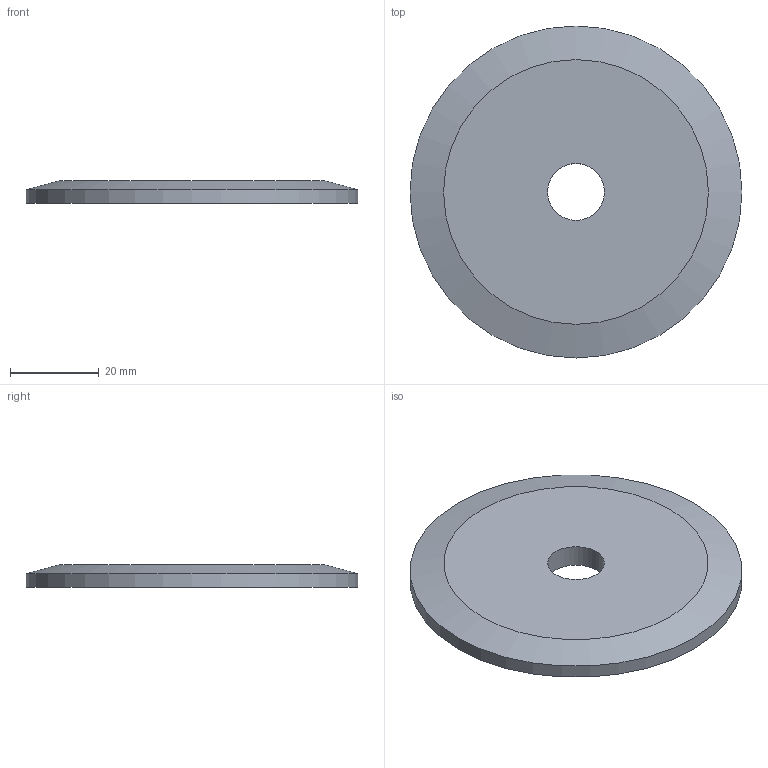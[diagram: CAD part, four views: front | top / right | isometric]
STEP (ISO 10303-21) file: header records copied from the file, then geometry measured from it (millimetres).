
FILE_DESCRIPTION( ( 'Unknown' ), '1' );
FILE_NAME( 'G:/STANDARDS/Web Drawings/Flanges/QF/#NEED TO BE CHECKED#/QF50-050-SBB.stp', 'Unknown', ( 'Unknown' ), ( 'Unknown' ), 'PSStep 15.0.49', 'Unknown', ' ' );
FILE_SCHEMA( ( 'AUTOMOTIVE_DESIGN { 1 0 10303 214 1 1 1 1 }' ) );
Length unit declared in the file: millimetre
Products named in the file (1): 1
Bounding box: 74.93 x 74.93 x 5.08 mm (x, y, z)
Volume: 18742.2 mm3; surface area: 10365.3 mm2
Topology: 1 solids, 1 shells, 9 faces, 16 edges, 11 vertices
Faces by surface type: plane 4, cylinder 4, cone 1
Full cylindrical faces by diameter (mm): 12.827 x1, 46.101 x1, 52.451 x1, 74.93 x1
Entity records: 276 total; most frequent: DIRECTION 38, CARTESIAN_POINT 28, AXIS2_PLACEMENT_3D 19, EDGE_LOOP 18, ORIENTED_EDGE 18, FACE_OUTER_BOUND 13, STYLED_ITEM 9, PRESENTATION_STYLE_ASSIGNMENT 9
